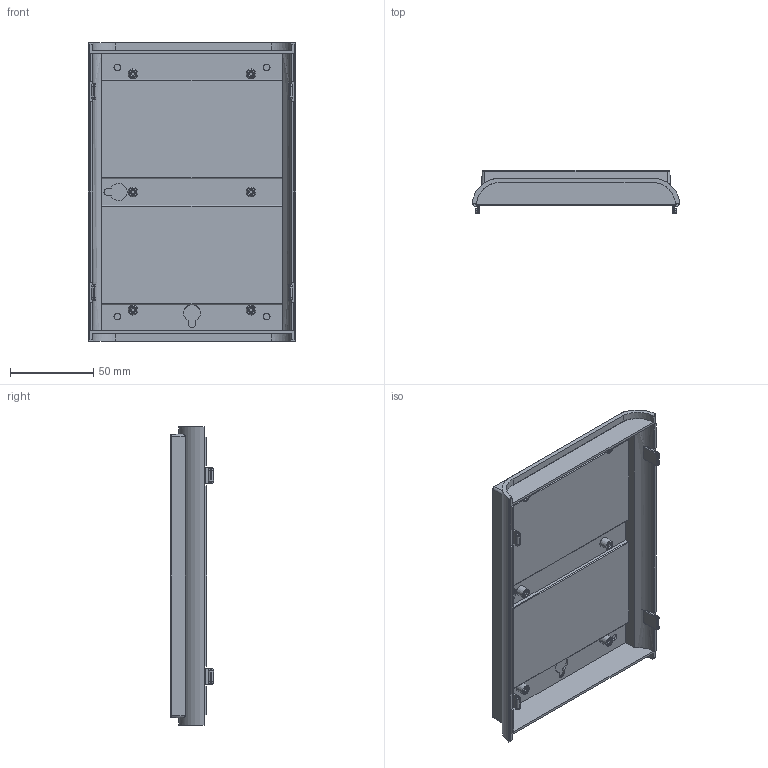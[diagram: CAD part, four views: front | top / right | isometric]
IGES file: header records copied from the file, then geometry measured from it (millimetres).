
Global section: file name: No Iges File Name specified; native system: Autodesk Inventor 2011; preprocessor: AutoDesk Inventor Iges Exporter R2011; author: tcook; date: 20101101.154802; units: inch
Bounding box: 124.92 x 25.91 x 179.58 mm (x, y, z)
Volume: 69959.8 mm3; surface area: 68435.3 mm2
Topology: 1 solids, 1 shells, 361 faces, 904 edges, 568 vertices
Faces by surface type: plane 137, bspline 89, cylinder 77, torus 23, revolution 23, cone 12
